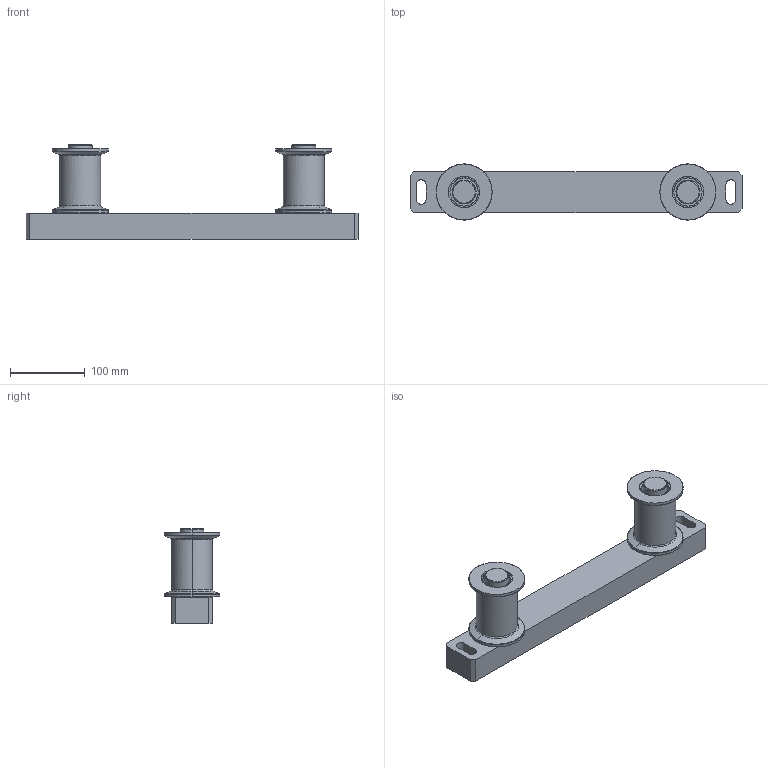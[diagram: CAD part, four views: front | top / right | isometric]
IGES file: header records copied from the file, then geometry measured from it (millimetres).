
Global section: file name: E:\UnigraphicsGraphicData\MISUMI_PRESS-PARTS\IGES\3d_gdrtbw55-70_03794_r00.igs; native system: NX V5.0; preprocessor: UGS NX IGES V5.0; author: MISUMI; date: 20110105.160711; units: millimetre
Bounding box: 445 x 75 x 127 mm (x, y, z)
Surface area: 189732.7 mm2 (no closed solid volume)
Topology: 0 solids, 0 shells, 172 faces, 1672 edges, 1672 vertices
Faces by surface type: bspline 172
